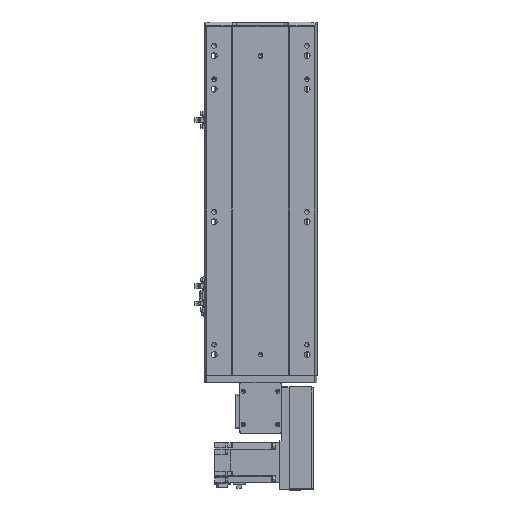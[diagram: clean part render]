
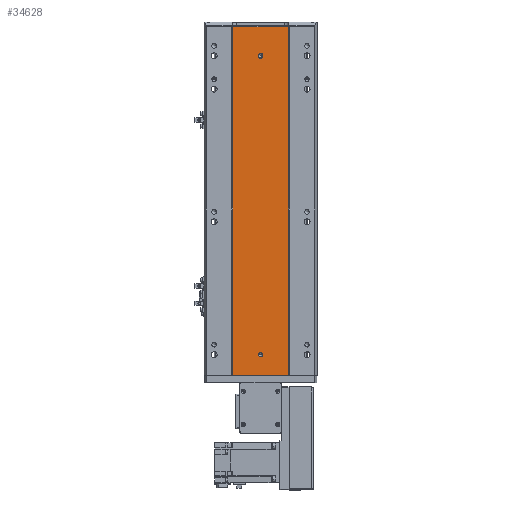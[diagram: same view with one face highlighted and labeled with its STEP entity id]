
A CAD part, top view. The second image highlights one B-rep face of the part: STEP entity #34628.
In plain terms, the highlighted planar face has unit normal (0, 0, 1).
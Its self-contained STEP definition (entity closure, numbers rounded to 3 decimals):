
#154 = ORIENTED_EDGE ( 'NONE', *, *, #24417, .F. ) ;
#315 = CIRCLE ( 'NONE', #11853, 3. ) ;
#406 = VECTOR ( 'NONE', #726, 1000. ) ;
#433 = CIRCLE ( 'NONE', #36713, 3. ) ;
#599 = CARTESIAN_POINT ( 'NONE',  ( 42., 0., 44. ) ) ;
#726 = DIRECTION ( 'NONE',  ( 0., 1., 0. ) ) ;
#1856 = CARTESIAN_POINT ( 'NONE',  ( -42., 0., 44. ) ) ;
#2466 = VECTOR ( 'NONE', #38004, 1000. ) ;
#2918 = DIRECTION ( 'NONE',  ( 1., 0., 0. ) ) ;
#3771 = EDGE_CURVE ( 'NONE', #24700, #7359, #34257, .T. ) ;
#4005 = DIRECTION ( 'NONE',  ( 0., -1., 0. ) ) ;
#4148 = CARTESIAN_POINT ( 'NONE',  ( -3., -43., 44. ) ) ;
#5125 = LINE ( 'NONE', #1856, #28999 ) ;
#5824 = AXIS2_PLACEMENT_3D ( 'NONE', #17930, #15315, #2918 ) ;
#6401 = CARTESIAN_POINT ( 'NONE',  ( 3., -43., 44. ) ) ;
#7359 = VERTEX_POINT ( 'NONE', #28189 ) ;
#7697 = CARTESIAN_POINT ( 'NONE',  ( -42., 0., 44. ) ) ;
#7760 = CARTESIAN_POINT ( 'NONE',  ( -3., -43., 44. ) ) ;
#7834 = DIRECTION ( 'NONE',  ( 1., 0., 0. ) ) ;
#7891 = FACE_BOUND ( 'NONE', #22995, .T. ) ;
#8519 = EDGE_CURVE ( 'NONE', #14683, #37173, #25844, .T. ) ;
#8684 = AXIS2_PLACEMENT_3D ( 'NONE', #31713, #16171, #34610 ) ;
#8782 = VECTOR ( 'NONE', #11899, 1000. ) ;
#9487 = DIRECTION ( 'NONE',  ( 0., 0., 1. ) ) ;
#9673 = LINE ( 'NONE', #16249, #406 ) ;
#9782 = VERTEX_POINT ( 'NONE', #599 ) ;
#9810 = EDGE_LOOP ( 'NONE', ( #16386, #154, #12102, #24942 ) ) ;
#10160 = CARTESIAN_POINT ( 'NONE',  ( -42., -525., 44. ) ) ;
#10544 = LINE ( 'NONE', #15280, #18342 ) ;
#10985 = CARTESIAN_POINT ( 'NONE',  ( 3., -45., 44. ) ) ;
#11174 = VERTEX_POINT ( 'NONE', #10985 ) ;
#11853 = AXIS2_PLACEMENT_3D ( 'NONE', #12325, #34164, #15745 ) ;
#11899 = DIRECTION ( 'NONE',  ( 0., 1., 0. ) ) ;
#12102 = ORIENTED_EDGE ( 'NONE', *, *, #25024, .F. ) ;
#12325 = CARTESIAN_POINT ( 'NONE',  ( 0., -43., 44. ) ) ;
#12470 = EDGE_LOOP ( 'NONE', ( #25584, #14429, #13266, #13374 ) ) ;
#13266 = ORIENTED_EDGE ( 'NONE', *, *, #29165, .T. ) ;
#13374 = ORIENTED_EDGE ( 'NONE', *, *, #31914, .T. ) ;
#13503 = CARTESIAN_POINT ( 'NONE',  ( -42., -525., 44. ) ) ;
#13971 = VERTEX_POINT ( 'NONE', #31586 ) ;
#14429 = ORIENTED_EDGE ( 'NONE', *, *, #8519, .F. ) ;
#14683 = VERTEX_POINT ( 'NONE', #13503 ) ;
#15104 = EDGE_CURVE ( 'NONE', #32238, #21296, #36664, .T. ) ;
#15280 = CARTESIAN_POINT ( 'NONE',  ( 3., -43., 44. ) ) ;
#15315 = DIRECTION ( 'NONE',  ( 0., 0., 1. ) ) ;
#15745 = DIRECTION ( 'NONE',  ( 1., 0., 0. ) ) ;
#16171 = DIRECTION ( 'NONE',  ( 0., 0., 1. ) ) ;
#16249 = CARTESIAN_POINT ( 'NONE',  ( 42., -525., 44. ) ) ;
#16386 = ORIENTED_EDGE ( 'NONE', *, *, #25591, .F. ) ;
#16998 = EDGE_CURVE ( 'NONE', #21296, #32238, #433, .T. ) ;
#17930 = CARTESIAN_POINT ( 'NONE',  ( -42., -525., 44. ) ) ;
#18342 = VECTOR ( 'NONE', #24958, 1000. ) ;
#19901 = AXIS2_PLACEMENT_3D ( 'NONE', #38294, #35046, #34902 ) ;
#21204 = PLANE ( 'NONE',  #5824 ) ;
#21296 = VERTEX_POINT ( 'NONE', #29317 ) ;
#22995 = EDGE_LOOP ( 'NONE', ( #32345, #29940 ) ) ;
#23021 = VECTOR ( 'NONE', #4005, 1000. ) ;
#24417 = EDGE_CURVE ( 'NONE', #11174, #30386, #10544, .T. ) ;
#24700 = VERTEX_POINT ( 'NONE', #7760 ) ;
#24942 = ORIENTED_EDGE ( 'NONE', *, *, #3771, .F. ) ;
#24958 = DIRECTION ( 'NONE',  ( 0., 1., 0. ) ) ;
#25024 = EDGE_CURVE ( 'NONE', #7359, #11174, #35380, .T. ) ;
#25476 = FACE_OUTER_BOUND ( 'NONE', #12470, .T. ) ;
#25584 = ORIENTED_EDGE ( 'NONE', *, *, #26160, .F. ) ;
#25591 = EDGE_CURVE ( 'NONE', #30386, #24700, #315, .T. ) ;
#25844 = LINE ( 'NONE', #30567, #8782 ) ;
#26160 = EDGE_CURVE ( 'NONE', #37173, #9782, #5125, .T. ) ;
#28189 = CARTESIAN_POINT ( 'NONE',  ( -3., -45., 44. ) ) ;
#28999 = VECTOR ( 'NONE', #7834, 1000. ) ;
#29165 = EDGE_CURVE ( 'NONE', #14683, #13971, #36644, .T. ) ;
#29317 = CARTESIAN_POINT ( 'NONE',  ( -3., -494., 44. ) ) ;
#29940 = ORIENTED_EDGE ( 'NONE', *, *, #16998, .F. ) ;
#30386 = VERTEX_POINT ( 'NONE', #6401 ) ;
#30567 = CARTESIAN_POINT ( 'NONE',  ( -42., -525., 44. ) ) ;
#31287 = CARTESIAN_POINT ( 'NONE',  ( 0., -494., 44. ) ) ;
#31586 = CARTESIAN_POINT ( 'NONE',  ( 42., -525., 44. ) ) ;
#31713 = CARTESIAN_POINT ( 'NONE',  ( 0., -45., 44. ) ) ;
#31914 = EDGE_CURVE ( 'NONE', #13971, #9782, #9673, .T. ) ;
#32238 = VERTEX_POINT ( 'NONE', #33691 ) ;
#32345 = ORIENTED_EDGE ( 'NONE', *, *, #15104, .F. ) ;
#33691 = CARTESIAN_POINT ( 'NONE',  ( 3., -494., 44. ) ) ;
#34164 = DIRECTION ( 'NONE',  ( 0., 0., 1. ) ) ;
#34257 = LINE ( 'NONE', #4148, #23021 ) ;
#34610 = DIRECTION ( 'NONE',  ( 1., 0., 0. ) ) ;
#34628 = ADVANCED_FACE ( 'NONE', ( #38158, #7891, #25476 ), #21204, .T. ) ;
#34902 = DIRECTION ( 'NONE',  ( 1., 0., 0. ) ) ;
#35046 = DIRECTION ( 'NONE',  ( 0., 0., 1. ) ) ;
#35380 = CIRCLE ( 'NONE', #8684, 3. ) ;
#36644 = LINE ( 'NONE', #10160, #2466 ) ;
#36664 = CIRCLE ( 'NONE', #19901, 3. ) ;
#36713 = AXIS2_PLACEMENT_3D ( 'NONE', #31287, #9487, #37596 ) ;
#37173 = VERTEX_POINT ( 'NONE', #7697 ) ;
#37596 = DIRECTION ( 'NONE',  ( 1., 0., 0. ) ) ;
#38004 = DIRECTION ( 'NONE',  ( 1., 0., 0. ) ) ;
#38158 = FACE_BOUND ( 'NONE', #9810, .T. ) ;
#38294 = CARTESIAN_POINT ( 'NONE',  ( 0., -494., 44. ) ) ;
